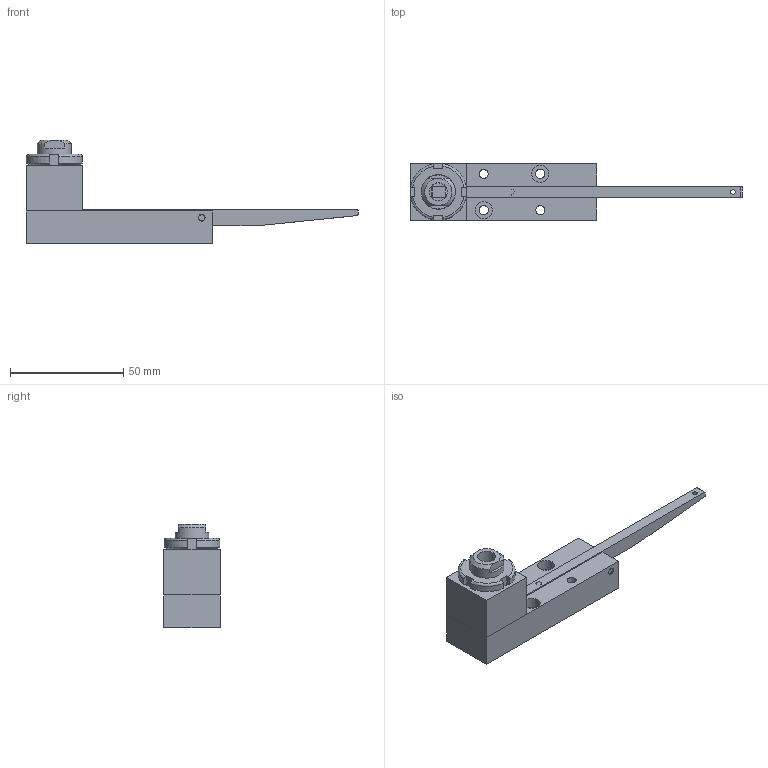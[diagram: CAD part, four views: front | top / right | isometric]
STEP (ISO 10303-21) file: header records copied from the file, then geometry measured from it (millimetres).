
FILE_DESCRIPTION(/* description */ (''),/* implementation_level */ '2;1');
FILE_NAME(/* name */ 'C:\Local Work Area\Progetti\AP\CALIBRI\18X.00 BILANCINO H60\183.00.stp',/* time_stamp */ '2015-05-07T16:14:58+02:00',/* author */ ('CAD5'),/* organization */ (''),/* preprocessor_version */ 'ST-DEVELOPER v15.2',/* originating_system */ 'Autodesk Inventor 2014',/* authorisation */ '0 mm^3');
FILE_SCHEMA (('AUTOMOTIVE_DESIGN { 1 0 10303 214 3 1 1 }'));
Length unit declared in the file: millimetre
Products named in the file (9): 182.02; 182.01; 03.56; Ghiera SKF M15x1 KM_2; ISO 2338 - 3  x 24 - A; UNI 5931 - M 4 x  16 - 0,7 - 13,9; D10320; 183.02; 18x.00
Bounding box: 146.5 x 25 x 45.75 mm (x, y, z)
Volume: 41742.1 mm3; surface area: 22658.4 mm2
Topology: 11 solids, 11 shells, 189 faces, 450 edges, 292 vertices
Faces by surface type: plane 96, cylinder 52, cone 23, torus 18
Full cylindrical faces by diameter (mm): 2.013 x1, 2.3 x1, 2.7 x1, 3 x6, 3.242 x4, 4 x6, 4.1 x6, 7 x4, 7.5 x6, 8 x1, 13.917 x1, 15 x2
Entity records: 4261 total; most frequent: CARTESIAN_POINT 878, DIRECTION 694, ORIENTED_EDGE 568, EDGE_CURVE 284, AXIS2_PLACEMENT_3D 284, EDGE_LOOP 234, VERTEX_POINT 214, ADVANCED_FACE 144
